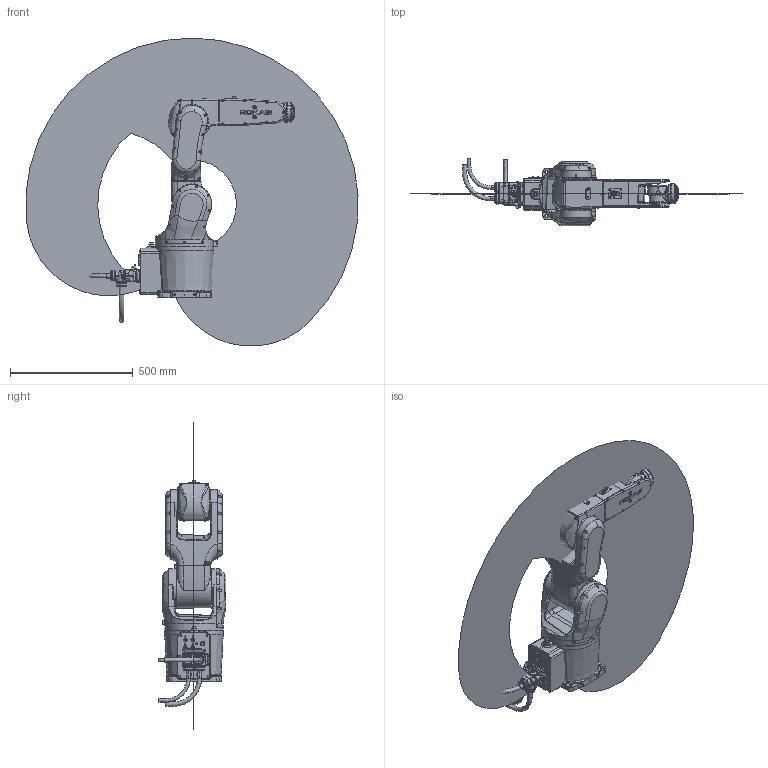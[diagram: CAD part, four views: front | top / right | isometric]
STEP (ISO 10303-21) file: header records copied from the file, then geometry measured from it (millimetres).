
FILE_DESCRIPTION(/* description */ (''),/* implementation_level */ '2;1');
FILE_NAME(/* name */ 'XB12s／_-R707-XBC3线束 简化模型(20220426).stp',/* time_stamp */ '2022-04-26T16:00:15+08:00',/* author */ (''),/* organization */ (''),/* preprocessor_version */ 'ST-DEVELOPER v16',/* originating_system */ 'SIEMENS PLM Software NX 10.0',/* authorisation */ '');
FILE_SCHEMA (('CONFIG_CONTROL_DESIGN'));
Products named in the file (9): XB7&12-3Dwork-A; XB12-shuchu-A; XB7&12-shouwan-A; XB7&12-xiaobiqian-Alogo; XB7&12-xiaobihou-A; XB7&12-dabi-A; XB7&12-yao-A; XB7&12-base-A; XB12s／_-R707-XBC3线束 \X2\7B805316
6A21578B\X0\(20220426)
Assembly tree (8 placements, depth 2):
  XB12s／_-R707-XBC3线束 \X2\7B805316
6A21578B\X0\(20220426)
    XB7&12-base-A
    XB7&12-yao-A
    XB7&12-dabi-A
    XB7&12-xiaobihou-A
    XB7&12-xiaobiqian-Alogo
    XB7&12-shouwan-A
    XB12-shuchu-A
    XB7&12-3Dwork-A
Bounding box: 1351.29 x 276 x 1252.93 mm (x, y, z)
Volume: 30660714.7 mm3; surface area: 2440449.8 mm2
Topology: 10 solids, 20 shells, 4010 faces, 9641 edges, 5794 vertices
Faces by surface type: plane 1360, cylinder 929, bspline 836, cone 328, torus 280, extrusion 209, sphere 68
Full cylindrical faces by diameter (mm): 2.874 x1, 3.3 x8, 4.2 x15, 4.826 x1, 5 x3, 5.5 x83, 6 x2, 7 x21, 8.5 x10, 9.5 x3, 10 x4, 10.701 x2, 13 x1, 13.5 x4, 14 x1, 15 x4, 18.5 x1, 20 x2, 22 x1, 40 x1, 45 x1, 50 x2, 55 x2, 59 x2, 65 x1, 68 x1, 70 x2, 86 x2, 88 x2, 100 x2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
Entity records: 174561 total; most frequent: CARTESIAN_POINT 90807, ORIENTED_EDGE 18066, DIRECTION 15189, EDGE_CURVE 9036, AXIS2_PLACEMENT_3D 5963, VERTEX_POINT 5647, EDGE_LOOP 4557, ADVANCED_FACE 4001
